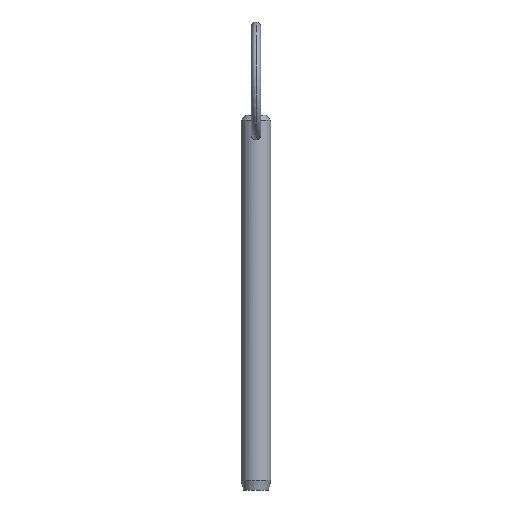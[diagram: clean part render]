
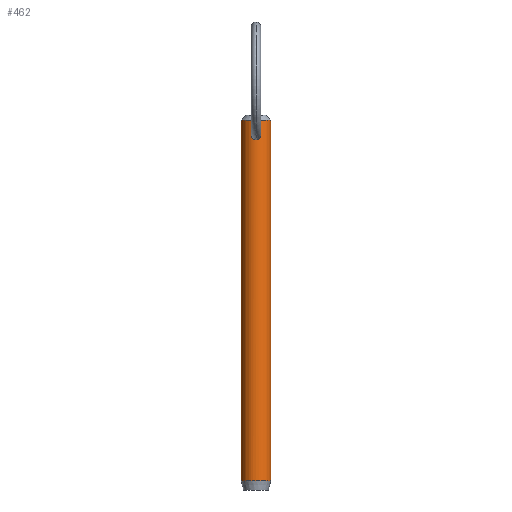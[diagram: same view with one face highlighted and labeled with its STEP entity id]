
A CAD part, front view. The second image highlights one B-rep face of the part: STEP entity #462.
In plain terms, the highlighted cylindrical face has radius 3.175 mm (diameter 6.35 mm), a partial arc.
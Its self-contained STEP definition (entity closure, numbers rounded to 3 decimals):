
#10 = CARTESIAN_POINT ( 'NONE',  ( 0., 0., 70.58 ) ) ;
#18 = EDGE_CURVE ( 'NONE', #28, #148, #113, .T. ) ;
#20 = ORIENTED_EDGE ( 'NONE', *, *, #18, .F. ) ;
#27 = CARTESIAN_POINT ( 'NONE',  ( 3.175, 0., -5.92 ) ) ;
#28 = VERTEX_POINT ( 'NONE', #82 ) ;
#36 = DIRECTION ( 'NONE',  ( 0., 0., -1. ) ) ;
#57 = EDGE_CURVE ( 'NONE', #28, #95, #155, .T. ) ;
#65 = CARTESIAN_POINT ( 'NONE',  ( -0.067, -3.175, 68.482 ) ) ;
#66 = VERTEX_POINT ( 'NONE', #384 ) ;
#77 = CARTESIAN_POINT ( 'NONE',  ( 0., 0., 66. ) ) ;
#82 = CARTESIAN_POINT ( 'NONE',  ( 3.175, 0., 70.58 ) ) ;
#95 = VERTEX_POINT ( 'NONE', #455 ) ;
#100 = CIRCLE ( 'NONE', #151, 3.175 ) ;
#101 = ORIENTED_EDGE ( 'NONE', *, *, #220, .T. ) ;
#102 = CARTESIAN_POINT ( 'NONE',  ( -0.133, -3.173, 68.474 ) ) ;
#113 = LINE ( 'NONE', #485, #354 ) ;
#118 = CARTESIAN_POINT ( 'NONE',  ( 0., -3.175, 66.403 ) ) ;
#123 = EDGE_LOOP ( 'NONE', ( #286, #101 ) ) ;
#132 = ORIENTED_EDGE ( 'NONE', *, *, #57, .T. ) ;
#137 = CARTESIAN_POINT ( 'NONE',  ( -0.134, -3.175, 66.403 ) ) ;
#146 = CARTESIAN_POINT ( 'NONE',  ( -0.888, -3.049, 66.909 ) ) ;
#148 = VERTEX_POINT ( 'NONE', #27 ) ;
#149 = CARTESIAN_POINT ( 'NONE',  ( 0.51, -3.136, 68.334 ) ) ;
#151 = AXIS2_PLACEMENT_3D ( 'NONE', #431, #214, #479 ) ;
#153 = CARTESIAN_POINT ( 'NONE',  ( 0.982, -3.02, 67.158 ) ) ;
#155 = CIRCLE ( 'NONE', #341, 3.175 ) ;
#158 = CARTESIAN_POINT ( 'NONE',  ( 1.004, -3.012, 67.293 ) ) ;
#160 = CARTESIAN_POINT ( 'NONE',  ( 0.992, -3.016, 67.694 ) ) ;
#161 = CARTESIAN_POINT ( 'NONE',  ( 0.628, -3.114, 66.604 ) ) ;
#165 = EDGE_LOOP ( 'NONE', ( #20, #132, #438, #252 ) ) ;
#171 = CYLINDRICAL_SURFACE ( 'NONE', #180, 3.175 ) ;
#172 = LINE ( 'NONE', #291, #264 ) ;
#180 = AXIS2_PLACEMENT_3D ( 'NONE', #77, #36, #381 ) ;
#187 = VERTEX_POINT ( 'NONE', #472 ) ;
#188 = CARTESIAN_POINT ( 'NONE',  ( -0.629, -3.114, 66.605 ) ) ;
#189 = CARTESIAN_POINT ( 'NONE',  ( 0.134, -3.175, 68.482 ) ) ;
#195 = EDGE_CURVE ( 'NONE', #95, #408, #172, .T. ) ;
#198 = CARTESIAN_POINT ( 'NONE',  ( 0.515, -3.135, 66.53 ) ) ;
#209 = EDGE_CURVE ( 'NONE', #408, #148, #100, .T. ) ;
#214 = DIRECTION ( 'NONE',  ( 0., 0., 1. ) ) ;
#220 = EDGE_CURVE ( 'NONE', #187, #66, #277, .T. ) ;
#225 = CARTESIAN_POINT ( 'NONE',  ( -0.882, -3.055, 67.96 ) ) ;
#233 = B_SPLINE_CURVE_WITH_KNOTS ( 'NONE', 3,
 ( #259, #189, #370, #149, #440, #379, #160, #158, #153, #418, #378, #161, #198, #343, #268, #118 ),
 .UNSPECIFIED., .F., .F.,
 ( 4, 2, 2, 2, 2, 2, 2, 4 ),
 ( 0.003, 0.003, 0.004, 0.004, 0.005, 0.005, 0.006, 0.006 ),
 .UNSPECIFIED. ) ;
#244 = DIRECTION ( 'NONE',  ( 0., 0., -1. ) ) ;
#252 = ORIENTED_EDGE ( 'NONE', *, *, #209, .T. ) ;
#259 = CARTESIAN_POINT ( 'NONE',  ( 0., -3.175, 68.482 ) ) ;
#260 = CARTESIAN_POINT ( 'NONE',  ( -0.328, -3.159, 68.421 ) ) ;
#262 = CARTESIAN_POINT ( 'NONE',  ( -0.615, -3.116, 68.253 ) ) ;
#264 = VECTOR ( 'NONE', #287, 1000. ) ;
#268 = CARTESIAN_POINT ( 'NONE',  ( 0.134, -3.175, 66.403 ) ) ;
#273 = CARTESIAN_POINT ( 'NONE',  ( -3.175, 0., -5.92 ) ) ;
#277 = B_SPLINE_CURVE_WITH_KNOTS ( 'NONE', 3,
 ( #469, #137, #333, #336, #188, #334, #146, #478, #296, #372, #225, #262, #406, #260, #297, #102, #65, #411 ),
 .UNSPECIFIED., .F., .F.,
 ( 4, 2, 2, 2, 2, 2, 2, 2, 4 ),
 ( 0.006, 0.006, 0.007, 0.007, 0.008, 0.008, 0.009, 0.009, 0.009 ),
 .UNSPECIFIED. ) ;
#286 = ORIENTED_EDGE ( 'NONE', *, *, #338, .T. ) ;
#287 = DIRECTION ( 'NONE',  ( 0., 0., -1. ) ) ;
#291 = CARTESIAN_POINT ( 'NONE',  ( -3.175, 0., 66. ) ) ;
#296 = CARTESIAN_POINT ( 'NONE',  ( -1.004, -3.012, 67.295 ) ) ;
#297 = CARTESIAN_POINT ( 'NONE',  ( -0.264, -3.165, 68.444 ) ) ;
#333 = CARTESIAN_POINT ( 'NONE',  ( -0.269, -3.166, 66.429 ) ) ;
#334 = CARTESIAN_POINT ( 'NONE',  ( -0.815, -3.07, 66.795 ) ) ;
#336 = CARTESIAN_POINT ( 'NONE',  ( -0.516, -3.135, 66.531 ) ) ;
#338 = EDGE_CURVE ( 'NONE', #66, #187, #233, .T. ) ;
#339 = FACE_OUTER_BOUND ( 'NONE', #165, .T. ) ;
#341 = AXIS2_PLACEMENT_3D ( 'NONE', #10, #244, #349 ) ;
#343 = CARTESIAN_POINT ( 'NONE',  ( 0.268, -3.166, 66.429 ) ) ;
#349 = DIRECTION ( 'NONE',  ( 1., 0., 0. ) ) ;
#354 = VECTOR ( 'NONE', #419, 1000. ) ;
#370 = CARTESIAN_POINT ( 'NONE',  ( 0.269, -3.166, 68.45 ) ) ;
#372 = CARTESIAN_POINT ( 'NONE',  ( -0.991, -3.016, 67.696 ) ) ;
#378 = CARTESIAN_POINT ( 'NONE',  ( 0.815, -3.07, 66.795 ) ) ;
#379 = CARTESIAN_POINT ( 'NONE',  ( 0.884, -3.055, 67.957 ) ) ;
#381 = DIRECTION ( 'NONE',  ( -1., 0., 0. ) ) ;
#384 = CARTESIAN_POINT ( 'NONE',  ( 0., -3.175, 68.482 ) ) ;
#388 = FACE_BOUND ( 'NONE', #123, .T. ) ;
#406 = CARTESIAN_POINT ( 'NONE',  ( -0.508, -3.136, 68.335 ) ) ;
#408 = VERTEX_POINT ( 'NONE', #273 ) ;
#411 = CARTESIAN_POINT ( 'NONE',  ( 0., -3.175, 68.482 ) ) ;
#418 = CARTESIAN_POINT ( 'NONE',  ( 0.888, -3.049, 66.909 ) ) ;
#419 = DIRECTION ( 'NONE',  ( 0., 0., -1. ) ) ;
#431 = CARTESIAN_POINT ( 'NONE',  ( 0., 0., -5.92 ) ) ;
#438 = ORIENTED_EDGE ( 'NONE', *, *, #195, .T. ) ;
#440 = CARTESIAN_POINT ( 'NONE',  ( 0.617, -3.116, 68.251 ) ) ;
#455 = CARTESIAN_POINT ( 'NONE',  ( -3.175, 0., 70.58 ) ) ;
#462 = ADVANCED_FACE ( 'NONE', ( #339, #388 ), #171, .T. ) ;
#469 = CARTESIAN_POINT ( 'NONE',  ( 0., -3.175, 66.403 ) ) ;
#472 = CARTESIAN_POINT ( 'NONE',  ( 0., -3.175, 66.403 ) ) ;
#478 = CARTESIAN_POINT ( 'NONE',  ( -0.983, -3.02, 67.159 ) ) ;
#479 = DIRECTION ( 'NONE',  ( -1., 0., 0. ) ) ;
#485 = CARTESIAN_POINT ( 'NONE',  ( 3.175, 0., 66. ) ) ;
